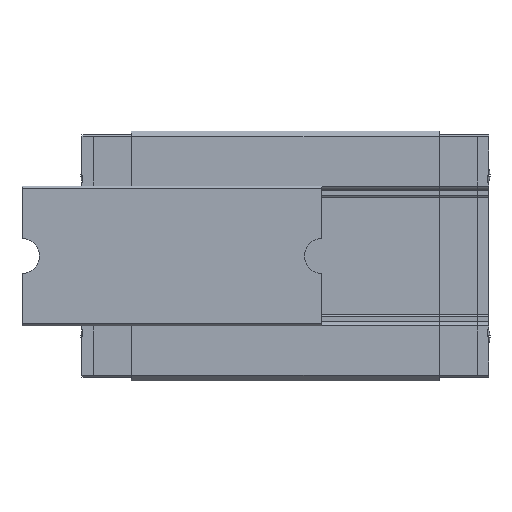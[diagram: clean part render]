
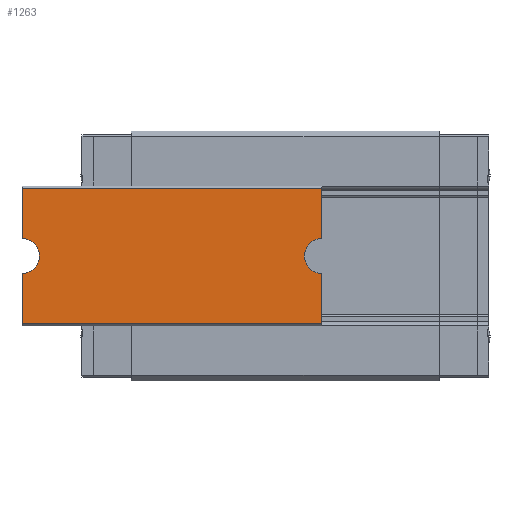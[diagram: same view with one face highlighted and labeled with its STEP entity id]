
A CAD part, front view. The second image highlights one B-rep face of the part: STEP entity #1263.
In plain terms, the highlighted planar face has unit normal (0, -1, 0).
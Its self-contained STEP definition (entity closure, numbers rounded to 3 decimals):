
#1263 = ADVANCED_FACE( '', ( #2516 ), #2517, .F. );
#2516 = FACE_OUTER_BOUND( '', #3752, .T. );
#2517 = PLANE( '', #3753 );
#3752 = EDGE_LOOP( '', ( #7310, #7311, #7312, #7313, #7314, #7315, #7316, #7317 ) );
#3753 = AXIS2_PLACEMENT_3D( '', #7318, #7319, #7320 );
#7310 = ORIENTED_EDGE( '', *, *, #8878, .F. );
#7311 = ORIENTED_EDGE( '', *, *, #8925, .F. );
#7312 = ORIENTED_EDGE( '', *, *, #8430, .T. );
#7313 = ORIENTED_EDGE( '', *, *, #8844, .T. );
#7314 = ORIENTED_EDGE( '', *, *, #8666, .F. );
#7315 = ORIENTED_EDGE( '', *, *, #7761, .T. );
#7316 = ORIENTED_EDGE( '', *, *, #8762, .F. );
#7317 = ORIENTED_EDGE( '', *, *, #8694, .F. );
#7318 = CARTESIAN_POINT( '', ( 15., 0., 6.753 ) );
#7319 = DIRECTION( '', ( 0., 1., 0. ) );
#7320 = DIRECTION( '', ( 0., 0., 1. ) );
#7761 = EDGE_CURVE( '', #9416, #9414, #9417, .T. );
#8430 = EDGE_CURVE( '', #10478, #10476, #10479, .T. );
#8666 = EDGE_CURVE( '', #9416, #10792, #10794, .T. );
#8694 = EDGE_CURVE( '', #10828, #10830, #10831, .T. );
#8762 = EDGE_CURVE( '', #10830, #9414, #10910, .T. );
#8844 = EDGE_CURVE( '', #10476, #10792, #11002, .T. );
#8878 = EDGE_CURVE( '', #11040, #10828, #11041, .T. );
#8925 = EDGE_CURVE( '', #10478, #11040, #11092, .T. );
#9414 = VERTEX_POINT( '', #11744 );
#9416 = VERTEX_POINT( '', #11747 );
#9417 = LINE( '', #11748, #11749 );
#10476 = VERTEX_POINT( '', #13252 );
#10478 = VERTEX_POINT( '', #13255 );
#10479 = LINE( '', #13256, #13257 );
#10792 = VERTEX_POINT( '', #13709 );
#10794 = CIRCLE( '', #13712, 1.75 );
#10828 = VERTEX_POINT( '', #13758 );
#10830 = VERTEX_POINT( '', #13761 );
#10831 = LINE( '', #13762, #13763 );
#10910 = LINE( '', #13878, #13879 );
#11002 = LINE( '', #14012, #14013 );
#11040 = VERTEX_POINT( '', #14066 );
#11041 = CIRCLE( '', #14067, 1.75 );
#11092 = LINE( '', #14133, #14134 );
#11744 = CARTESIAN_POINT( '', ( -15., 0., -6.753 ) );
#11747 = CARTESIAN_POINT( '', ( -15., 0., -1.75 ) );
#11748 = CARTESIAN_POINT( '', ( -15., 0., 6.753 ) );
#11749 = VECTOR( '', #14489, 1000. );
#13252 = CARTESIAN_POINT( '', ( -15., 0., 6.753 ) );
#13255 = CARTESIAN_POINT( '', ( 15., 0., 6.753 ) );
#13256 = CARTESIAN_POINT( '', ( 15., 0., 6.753 ) );
#13257 = VECTOR( '', #15193, 1000. );
#13709 = CARTESIAN_POINT( '', ( -15., 0., 1.75 ) );
#13712 = AXIS2_PLACEMENT_3D( '', #15427, #15428, #15429 );
#13758 = CARTESIAN_POINT( '', ( 15., 0., -1.75 ) );
#13761 = CARTESIAN_POINT( '', ( 15., 0., -6.753 ) );
#13762 = CARTESIAN_POINT( '', ( 15., 0., 6.753 ) );
#13763 = VECTOR( '', #15455, 1000. );
#13878 = CARTESIAN_POINT( '', ( 15., 0., -6.753 ) );
#13879 = VECTOR( '', #15504, 1000. );
#14012 = CARTESIAN_POINT( '', ( -15., 0., 6.753 ) );
#14013 = VECTOR( '', #15552, 1000. );
#14066 = CARTESIAN_POINT( '', ( 15., 0., 1.75 ) );
#14067 = AXIS2_PLACEMENT_3D( '', #15574, #15575, #15576 );
#14133 = CARTESIAN_POINT( '', ( 15., 0., 6.753 ) );
#14134 = VECTOR( '', #15598, 1000. );
#14489 = DIRECTION( '', ( 0., 0., -1. ) );
#15193 = DIRECTION( '', ( -1., 0., 0. ) );
#15427 = CARTESIAN_POINT( '', ( -15., 0., 0. ) );
#15428 = DIRECTION( '', ( 0., -1., 0. ) );
#15429 = DIRECTION( '', ( 0., 0., -1. ) );
#15455 = DIRECTION( '', ( 0., 0., -1. ) );
#15504 = DIRECTION( '', ( -1., 0., 0. ) );
#15552 = DIRECTION( '', ( 0., 0., -1. ) );
#15574 = CARTESIAN_POINT( '', ( 15., 0., 0. ) );
#15575 = DIRECTION( '', ( 0., -1., 0. ) );
#15576 = DIRECTION( '', ( 0., 0., -1. ) );
#15598 = DIRECTION( '', ( 0., 0., -1. ) );
